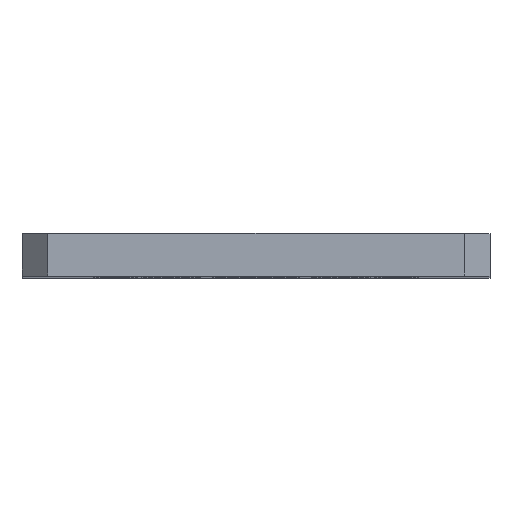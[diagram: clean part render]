
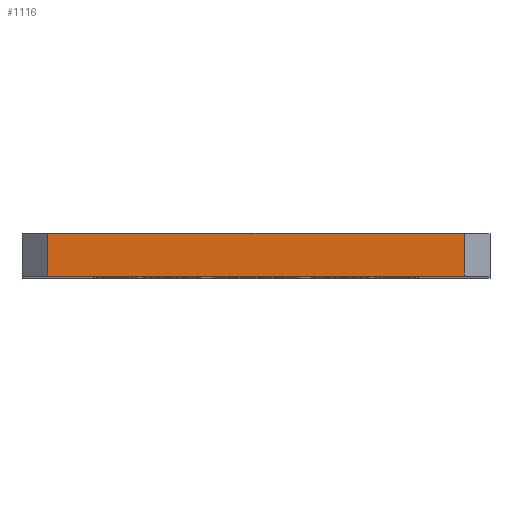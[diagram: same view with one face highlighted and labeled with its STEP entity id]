
A CAD part, top view. The second image highlights one B-rep face of the part: STEP entity #1116.
In plain terms, the highlighted planar face has unit normal (0, 0, 1).
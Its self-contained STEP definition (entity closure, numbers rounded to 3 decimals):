
#189=FACE_OUTER_BOUND('',#299,.T.);
#299=EDGE_LOOP('',(#838,#839,#840,#841));
#348=LINE('',#1643,#422);
#362=LINE('',#1736,#436);
#374=LINE('',#1822,#448);
#375=LINE('',#1823,#449);
#422=VECTOR('',#1311,1000.);
#436=VECTOR('',#1391,1000.);
#448=VECTOR('',#1471,1000.);
#449=VECTOR('',#1472,1000.);
#496=VERTEX_POINT('',#1641);
#497=VERTEX_POINT('',#1642);
#542=VERTEX_POINT('',#1733);
#543=VERTEX_POINT('',#1735);
#596=EDGE_CURVE('',#496,#497,#348,.T.);
#642=EDGE_CURVE('',#543,#542,#362,.T.);
#686=EDGE_CURVE('',#542,#497,#374,.T.);
#687=EDGE_CURVE('',#496,#543,#375,.T.);
#838=ORIENTED_EDGE('',*,*,#642,.T.);
#839=ORIENTED_EDGE('',*,*,#686,.T.);
#840=ORIENTED_EDGE('',*,*,#596,.F.);
#841=ORIENTED_EDGE('',*,*,#687,.T.);
#1049=PLANE('',#1246);
#1116=ADVANCED_FACE('',(#189),#1049,.F.);
#1246=AXIS2_PLACEMENT_3D('',#1821,#1469,#1470);
#1311=DIRECTION('',(-1.,0.,0.));
#1391=DIRECTION('',(-1.,0.,0.));
#1469=DIRECTION('center_axis',(0.,0.,-1.));
#1470=DIRECTION('ref_axis',(-1.,0.,0.));
#1471=DIRECTION('',(0.,-1.,0.));
#1472=DIRECTION('',(0.,1.,0.));
#1641=CARTESIAN_POINT('',(24.5,-2.5,37.5));
#1642=CARTESIAN_POINT('',(-24.5,-2.5,37.5));
#1643=CARTESIAN_POINT('',(27.5,-2.5,37.5));
#1733=CARTESIAN_POINT('',(-24.5,2.5,37.5));
#1735=CARTESIAN_POINT('',(24.5,2.5,37.5));
#1736=CARTESIAN_POINT('',(27.5,2.5,37.5));
#1821=CARTESIAN_POINT('Origin',(27.5,-2.5,37.5));
#1822=CARTESIAN_POINT('',(-24.5,-2.5,37.5));
#1823=CARTESIAN_POINT('',(24.5,-2.5,37.5));
